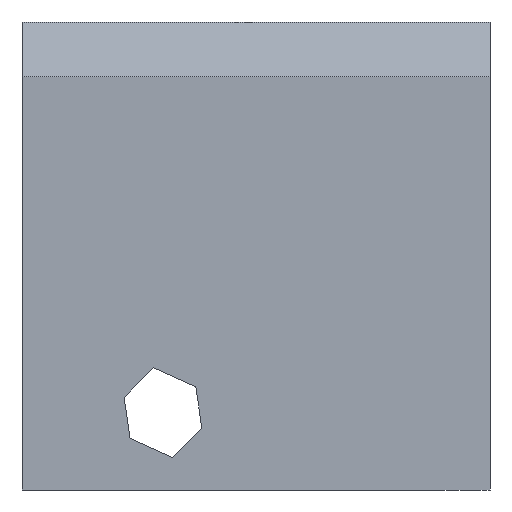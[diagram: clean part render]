
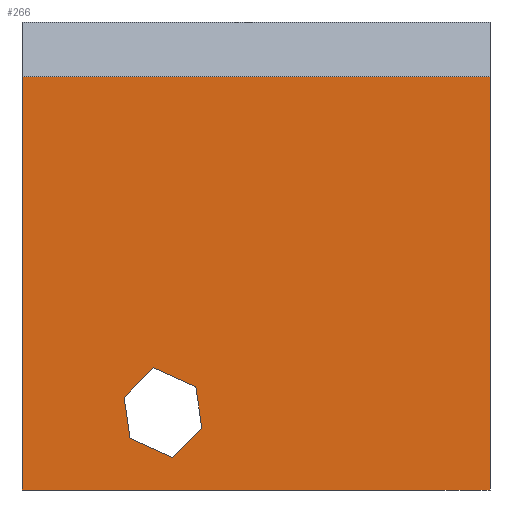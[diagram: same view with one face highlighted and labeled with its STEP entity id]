
A CAD part, front view. The second image highlights one B-rep face of the part: STEP entity #266.
In plain terms, the highlighted planar face has unit normal (0, -1, 0).
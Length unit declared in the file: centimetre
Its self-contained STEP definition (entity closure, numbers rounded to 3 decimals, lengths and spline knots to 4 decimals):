
#1 = VECTOR ( 'NONE', #949, 100. ) ;
#21 = EDGE_LOOP ( 'NONE', ( #141, #685, #1098, #592 ) ) ;
#26 = ORIENTED_EDGE ( 'NONE', *, *, #694, .T. ) ;
#29 = EDGE_CURVE ( 'NONE', #838, #729, #70, .T. ) ;
#43 = EDGE_CURVE ( 'NONE', #859, #782, #227, .T. ) ;
#63 = VERTEX_POINT ( 'NONE', #233 ) ;
#70 = LINE ( 'NONE', #778, #134 ) ;
#86 = FACE_OUTER_BOUND ( 'NONE', #21, .T. ) ;
#101 = DIRECTION ( 'NONE',  ( -1., 0., 0. ) ) ;
#102 = EDGE_LOOP ( 'NONE', ( #614, #26, #802, #1171, #176, #1006 ) ) ;
#121 = LINE ( 'NONE', #565, #202 ) ;
#134 = VECTOR ( 'NONE', #1063, 100. ) ;
#141 = ORIENTED_EDGE ( 'NONE', *, *, #940, .F. ) ;
#151 = CARTESIAN_POINT ( 'NONE',  ( 371.4452, 0., 220.4915 ) ) ;
#162 = CARTESIAN_POINT ( 'NONE',  ( 218.223, 0., 198.5436 ) ) ;
#176 = ORIENTED_EDGE ( 'NONE', *, *, #1057, .T. ) ;
#189 = DIRECTION ( 'NONE',  ( 1., 0., 0. ) ) ;
#195 = CARTESIAN_POINT ( 'NONE',  ( 384.1169, 0., 132.0286 ) ) ;
#202 = VECTOR ( 'NONE', #1023, 100. ) ;
#227 = LINE ( 'NONE', #525, #1 ) ;
#233 = CARTESIAN_POINT ( 'NONE',  ( 0., 0., 0. ) ) ;
#260 = LINE ( 'NONE', #999, #379 ) ;
#266 = ADVANCED_FACE ( 'NONE', ( #457, #86 ), #791, .F. ) ;
#273 = EDGE_CURVE ( 'NONE', #458, #418, #1157, .T. ) ;
#283 = CARTESIAN_POINT ( 'NONE',  ( 0., 0., 883.0978 ) ) ;
#309 = VECTOR ( 'NONE', #845, 100. ) ;
#342 = DIRECTION ( 'NONE',  ( 0., 0., -1. ) ) ;
#349 = EDGE_CURVE ( 'NONE', #63, #795, #260, .T. ) ;
#365 = LINE ( 'NONE', #452, #656 ) ;
#379 = VECTOR ( 'NONE', #189, 100. ) ;
#381 = DIRECTION ( 'NONE',  ( 0.912, 0., -0.411 ) ) ;
#406 = EDGE_CURVE ( 'NONE', #782, #893, #658, .T. ) ;
#418 = VERTEX_POINT ( 'NONE', #283 ) ;
#452 = CARTESIAN_POINT ( 'NONE',  ( 230.8947, 0., 110.0807 ) ) ;
#457 = FACE_BOUND ( 'NONE', #102, .T. ) ;
#458 = VERTEX_POINT ( 'NONE', #748 ) ;
#493 = LINE ( 'NONE', #756, #309 ) ;
#494 = VECTOR ( 'NONE', #101, 100. ) ;
#525 = CARTESIAN_POINT ( 'NONE',  ( 218.223, 0., 198.5436 ) ) ;
#565 = CARTESIAN_POINT ( 'NONE',  ( 371.4452, 0., 220.4915 ) ) ;
#592 = ORIENTED_EDGE ( 'NONE', *, *, #349, .T. ) ;
#603 = EDGE_CURVE ( 'NONE', #418, #63, #914, .T. ) ;
#614 = ORIENTED_EDGE ( 'NONE', *, *, #406, .T. ) ;
#656 = VECTOR ( 'NONE', #913, 100. ) ;
#658 = LINE ( 'NONE', #1097, #1037 ) ;
#685 = ORIENTED_EDGE ( 'NONE', *, *, #273, .T. ) ;
#694 = EDGE_CURVE ( 'NONE', #893, #1102, #121, .T. ) ;
#729 = VERTEX_POINT ( 'NONE', #835 ) ;
#731 = VECTOR ( 'NONE', #813, 100. ) ;
#748 = CARTESIAN_POINT ( 'NONE',  ( 1000., 0., 883.0978 ) ) ;
#756 = CARTESIAN_POINT ( 'NONE',  ( 384.1169, 0., 132.0286 ) ) ;
#778 = CARTESIAN_POINT ( 'NONE',  ( 321.3765, 0., 69.2883 ) ) ;
#782 = VERTEX_POINT ( 'NONE', #937 ) ;
#785 = EDGE_CURVE ( 'NONE', #1102, #838, #493, .T. ) ;
#791 = PLANE ( 'NONE',  #1004 ) ;
#795 = VERTEX_POINT ( 'NONE', #1106 ) ;
#802 = ORIENTED_EDGE ( 'NONE', *, *, #785, .T. ) ;
#804 = DIRECTION ( 'NONE',  ( 0., 1., 0. ) ) ;
#813 = DIRECTION ( 'NONE',  ( 0., 0., -1. ) ) ;
#835 = CARTESIAN_POINT ( 'NONE',  ( 230.8947, 0., 110.0807 ) ) ;
#838 = VERTEX_POINT ( 'NONE', #1142 ) ;
#840 = VECTOR ( 'NONE', #342, 100. ) ;
#845 = DIRECTION ( 'NONE',  ( -0.707, 0., -0.707 ) ) ;
#859 = VERTEX_POINT ( 'NONE', #162 ) ;
#861 = CARTESIAN_POINT ( 'NONE',  ( 1000., 0., 1000. ) ) ;
#893 = VERTEX_POINT ( 'NONE', #151 ) ;
#907 = DIRECTION ( 'NONE',  ( 0., 0., 1. ) ) ;
#913 = DIRECTION ( 'NONE',  ( -0.142, 0., 0.99 ) ) ;
#914 = LINE ( 'NONE', #1160, #731 ) ;
#937 = CARTESIAN_POINT ( 'NONE',  ( 280.9633, 0., 261.2839 ) ) ;
#940 = EDGE_CURVE ( 'NONE', #458, #795, #1068, .T. ) ;
#949 = DIRECTION ( 'NONE',  ( 0.707, 0., 0.707 ) ) ;
#999 = CARTESIAN_POINT ( 'NONE',  ( 0., 0., 0. ) ) ;
#1004 = AXIS2_PLACEMENT_3D ( 'NONE', #1083, #804, #907 ) ;
#1006 = ORIENTED_EDGE ( 'NONE', *, *, #43, .T. ) ;
#1023 = DIRECTION ( 'NONE',  ( 0.142, 0., -0.99 ) ) ;
#1037 = VECTOR ( 'NONE', #381, 100. ) ;
#1057 = EDGE_CURVE ( 'NONE', #729, #859, #365, .T. ) ;
#1063 = DIRECTION ( 'NONE',  ( -0.912, 0., 0.411 ) ) ;
#1068 = LINE ( 'NONE', #861, #840 ) ;
#1083 = CARTESIAN_POINT ( 'NONE',  ( 0., 0., 1000. ) ) ;
#1097 = CARTESIAN_POINT ( 'NONE',  ( 280.9633, 0., 261.2839 ) ) ;
#1098 = ORIENTED_EDGE ( 'NONE', *, *, #603, .T. ) ;
#1102 = VERTEX_POINT ( 'NONE', #195 ) ;
#1106 = CARTESIAN_POINT ( 'NONE',  ( 1000., 0., 0. ) ) ;
#1142 = CARTESIAN_POINT ( 'NONE',  ( 321.3765, 0., 69.2883 ) ) ;
#1157 = LINE ( 'NONE', #1170, #494 ) ;
#1160 = CARTESIAN_POINT ( 'NONE',  ( 0., 0., 1000. ) ) ;
#1170 = CARTESIAN_POINT ( 'NONE',  ( 0., 0., 883.0978 ) ) ;
#1171 = ORIENTED_EDGE ( 'NONE', *, *, #29, .T. ) ;
